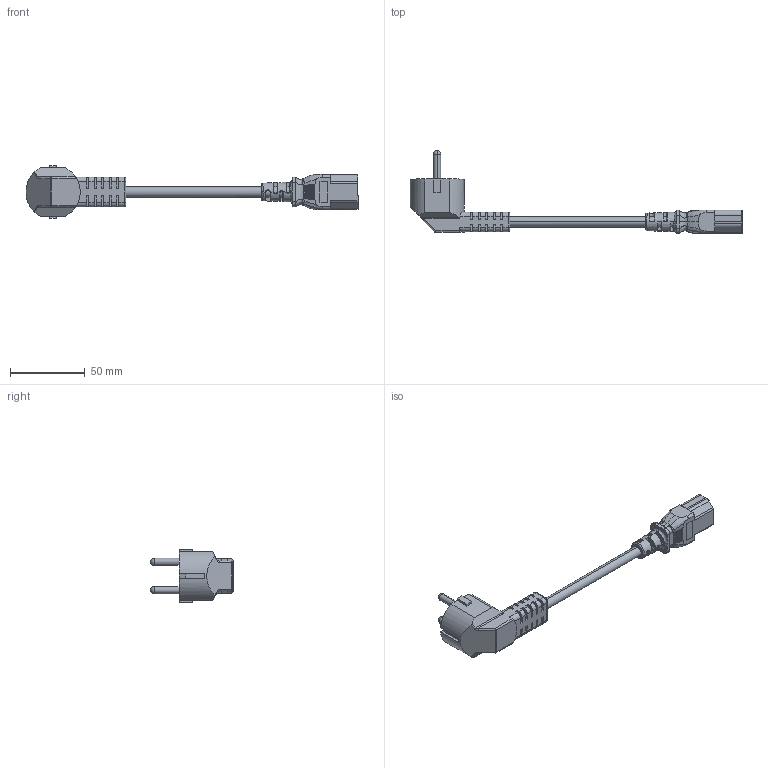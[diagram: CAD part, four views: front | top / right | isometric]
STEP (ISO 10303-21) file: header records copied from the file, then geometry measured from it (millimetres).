
FILE_DESCRIPTION (( 'STEP AP214' ), '1' );
FILE_NAME ('PR2EU12M.STEP', '2025-07-25T08:19:53', ( '' ), ( '' ), 'SwSTEP 2.0', 'SolidWorks 2024', '' );
FILE_SCHEMA (( 'AUTOMOTIVE_DESIGN' ));
Length unit declared in the file: millimetre
Products named in the file (1): PR2EU12M
Bounding box: 221.45 x 55.3 x 35.28 mm (x, y, z)
Volume: 54239.6 mm3; surface area: 17293.8 mm2
Topology: 2 solids, 2 shells, 442 faces, 1166 edges, 730 vertices
Faces by surface type: plane 258, cylinder 86, bspline 50, torus 24, cone 18, sphere 6
Entity records: 24236 total; most frequent: CARTESIAN_POINT 9579, ORIENTED_EDGE 2316, DIRECTION 1588, EDGE_CURVE 1158, VERTEX_POINT 728, VECTOR 574, LINE 574, AXIS2_PLACEMENT_3D 507
